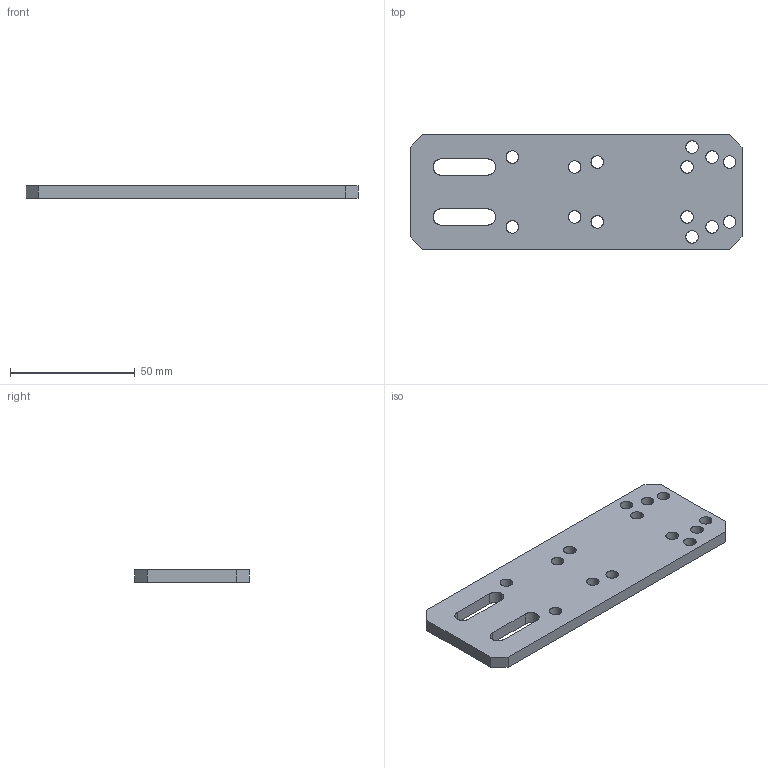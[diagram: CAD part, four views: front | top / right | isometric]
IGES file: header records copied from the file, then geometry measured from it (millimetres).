
Start section: SolidWorks IGES file using analytic representation for surfaces
Global section: file name: C:\Documents and Settings\CAD53\デスクトップ\IGES\N01915-305-0.IGS; native system: SolidWorks 2005 by SolidWorks Corporation; preprocessor: SolidWorks 2005 by SolidWorks Corporation; author: CAD53; date: 070530.095919; units: millimetre
Bounding box: 133 x 46 x 5 mm (x, y, z)
Surface area: 14377.7 mm2 (no closed solid volume)
Topology: 0 solids, 0 shells, 48 faces, 1232 edges, 1232 vertices
Faces by surface type: revolution 34, bspline 14
